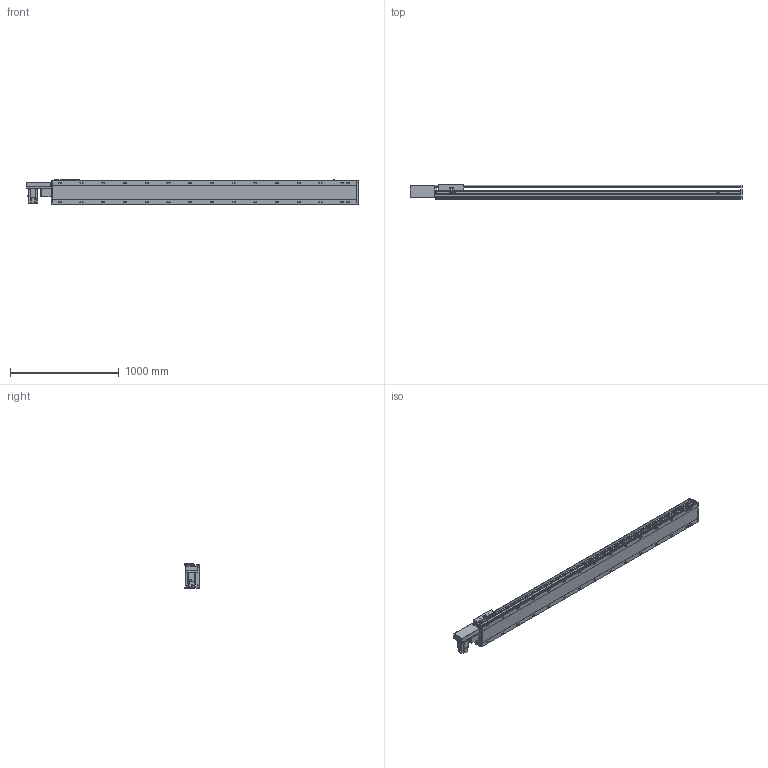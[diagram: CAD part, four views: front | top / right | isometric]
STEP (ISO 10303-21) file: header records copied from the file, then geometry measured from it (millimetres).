
FILE_DESCRIPTION(/* description */ ('STEP AP214'),/* implementation_level */ '2;1');
FILE_NAME(/* name */ 'PBS220-P40-S2450-R-T75-C1-N(0)',/* time_stamp */ '2022-06-11T10:02:51+02:00',/* author */ ('License CC BY-ND 4.0'),/* organization */ ('CADENAS'),/* preprocessor_version */ 'ST-DEVELOPER v18.102',/* originating_system */ 'PARTsolutions',/* authorisation */ ' ');
FILE_SCHEMA (('AUTOMOTIVE_DESIGN {1 0 10303 214 3 1 1}'));
Length unit declared in the file: millimetre
Products named in the file (7): PBS220-P40-S2450-R-T75-C1-N(0); PBS220_sensor; PBS220_plant; PBS220_sliser; T75-p1; PBS220T-R_motors; PBS220-S2450()_body
Assembly tree (8 placements, depth 2):
  PBS220-P40-S2450-R-T75-C1-N(0)
    PBS220_sensor  x3
    PBS220_plant
    PBS220_sliser
    T75-p1
    PBS220T-R_motors
    PBS220-S2450()_body
Bounding box: 3056 x 134 x 238.5 mm (x, y, z)
Volume: 40979284.3 mm3; surface area: 3763944.6 mm2
Topology: 8 solids, 8 shells, 998 faces, 2592 edges, 1684 vertices
Faces by surface type: plane 626, cylinder 318, cone 54
Full cylindrical faces by diameter (mm): 2.013 x4, 4.5 x14, 4.917 x4, 6 x7, 6.647 x8, 8 x10, 8.376 x30, 8.5 x30, 10 x6, 14 x30, 38 x2, 40 x1, 70 x1
Entity records: 27813 total; most frequent: CARTESIAN_POINT 4954, DIRECTION 4833, ORIENTED_EDGE 4358, EDGE_CURVE 2179, AXIS2_PLACEMENT_3D 1737, VERTEX_POINT 1528, LINE 1359, VECTOR 1359
